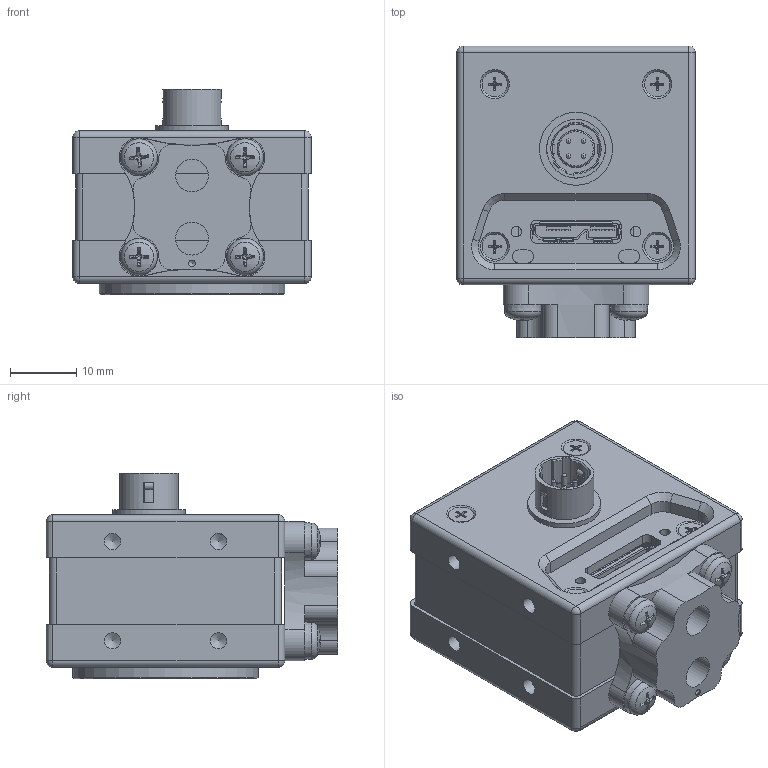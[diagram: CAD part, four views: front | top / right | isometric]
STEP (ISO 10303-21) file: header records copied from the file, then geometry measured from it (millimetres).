
FILE_DESCRIPTION(/* description */ (''),/* implementation_level */ '2;1');
FILE_NAME(/* name */ 'D:\HiDrive\1_Konstruktion\1_KUNDEN\TIS\154-13_MC36-Camera (Opto Precision)\154-13-4-00-00_MC36 Cam-10MP-CMOS-USB3-4PHirose\IPT und STEP Ableitungen für Kunden\154-13-40\154-13-40_(MC36_USB3_4PHiro_CS-FP_13.1_ER-6,7).stp',/* time_stamp */ '2017-10-24T20:29:48+02:00',/* author */ ('khw'),/* organization */ (''),/* preprocessor_version */ 'ST-DEVELOPER v16.5',/* originating_system */ 'Autodesk Inventor 2017',/* authorisation */ '');
FILE_SCHEMA (('AUTOMOTIVE_DESIGN { 1 0 10303 214 3 1 1 }'));
Length unit declared in the file: millimetre
Products named in the file (4): 3_154-13-40_(MC36_USB3_4PHiro_CS-FP_13.1_ER-6,7); 154-13-40_(MC36_USB3_4PHiro_CS-FP_13.1_ER-6,7); 154-13-1-00-03_(Tripod Adapter_OP34-240-007-C-FZ-01); ISO 7045 - M3 x 6 - 4.8 - H
Assembly tree (6 placements, depth 2):
  3_154-13-40_(MC36_USB3_4PHiro_CS-FP_13.1_ER-6,7)
    154-13-40_(MC36_USB3_4PHiro_CS-FP_13.1_ER-6,7)
    154-13-1-00-03_(Tripod Adapter_OP34-240-007-C-FZ-01)
    ISO 7045 - M3 x 6 - 4.8 - H  x4
Bounding box: 36 x 44 x 31.05 mm (x, y, z)
Volume: 17569.7 mm3; surface area: 17334.7 mm2
Topology: 7 solids, 8 shells, 1246 faces, 3434 edges, 2233 vertices
Faces by surface type: plane 640, cylinder 394, cone 154, torus 42, sphere 12, bspline 4
Full cylindrical faces by diameter (mm): 0.7 x5, 0.8 x6, 1 x1, 1.1 x4, 1.567 x6, 1.755 x4, 2 x4, 2.3 x4, 2.459 x16, 2.729 x4, 3 x4, 3.4 x4, 3.8 x4, 4 x4, 4.917 x1, 4.978 x1, 5.6 x1, 5.7 x1, 6.55 x1, 6.6 x1, 8 x2, 8.85 x1, 11 x2, 12 x1, 20.2 x1, 21.9 x1, 22 x2, 24.536 x1, 25.8 x1, 26 x1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
Entity records: 40170 total; most frequent: CARTESIAN_POINT 9644, DIRECTION 6226, ORIENTED_EDGE 5962, EDGE_CURVE 2981, AXIS2_PLACEMENT_3D 2254, VERTEX_POINT 2018, LINE 1718, VECTOR 1718
